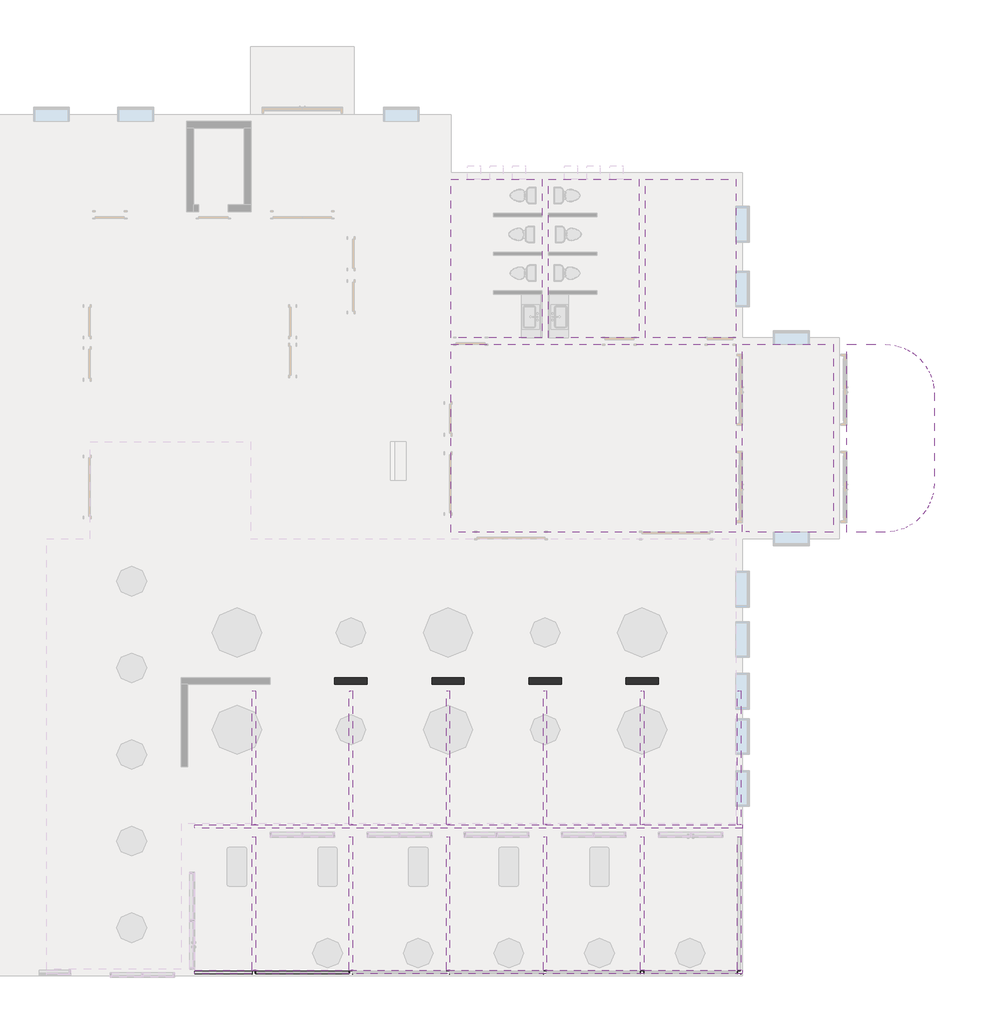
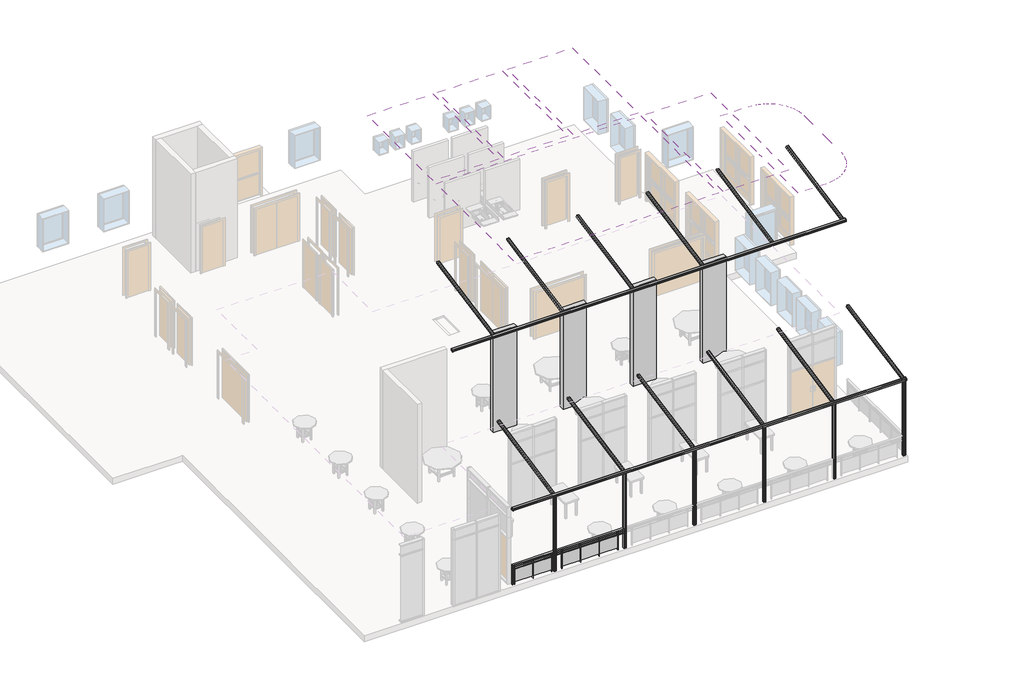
# One storey, part 3 of 4: 14 beams, 10 columns, 5 coverings, 2 railings, 1 roof.
"""IFC4 building model written with IfcOpenShell, lengths in millimetres."""

from ifc_helpers import new_model, si_unit, point, frame, frame_2d, origin, origin_with_axes, place, context, project, spatial, polyline, circle_curve, ellipse_curve, trimmed, segment, composite_curve, outline, extrude, transform, mapped, element, save
from ifc_brep_helpers import plane_surface, cylinder_surface, extruded_surface, advanced_brep
from components import beam_26c6b2e9, beam_d79d36f8, beam_04f6dccd, column_331ee7b7

model = new_model("IFC4")

# Units and contexts
model_context = context("Model", 3, world=origin())
ifc_project = project(units=[si_unit("LENGTHUNIT", "METRE", prefix="MILLI")], contexts=[model_context])

# Site, building, storey
site = spatial("IfcSite", under=ifc_project)
building = spatial("IfcBuilding", under=site)
storey = spatial("IfcBuildingStorey", under=building, Name="Этаж 1", Elevation=0.0)

# Beams
placement = place(None, origin())
beam_shape = beam_26c6b2e9(model_context)
element("IfcBeam", 1, ObjectType="Гнутый квадратный профиль (ТУ BE25577 - 83) Балки : гнутый квадрат. проф. 100x5", at=placement, inside=storey, context=model_context, shape_type="MappedRepresentation", body=[
    mapped(beam_shape, transform((382.7882356, -7791.107586, 3428.5086152), x_axis=(-1.0, 0.0, 0.0), y_axis=(0.0, -0.9807856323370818, -0.19508855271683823), z_axis=(0.0, -0.19508855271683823, 0.9807856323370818))),
])
element("IfcBeam", 2, ObjectType="Гнутый квадратный профиль (ТУ BE25577 - 83) Балки : гнутый квадрат. проф. 100x5", at=placement, inside=storey, context=model_context, shape_type="MappedRepresentation", body=[
    mapped(beam_shape, transform((382.7882356, -3297.6186003, 7927.2135062), x_axis=(-1.0, 0.0, 0.0), y_axis=(0.0, -0.9807856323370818, -0.1950885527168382), z_axis=(0.0, -0.1950885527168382, 0.9807856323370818))),
])
beam_2_shape = beam_d79d36f8(model_context)
element("IfcBeam", 3, ObjectType="Гнутый квадратный профиль (ТУ BE25577 - 83) Балки : гнутый квадрат. проф. 100x5", at=placement, inside=storey, context=model_context, shape_type="MappedRepresentation", body=[
    mapped(beam_2_shape, transform((8742.7882356, -5708.2305977, 3842.8147018), x_axis=(0.0, -0.9807856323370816, -0.19508855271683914), y_axis=(1.0, 0.0, 0.0), z_axis=(0.0, -0.1950885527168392, 0.9807856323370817))),
])
element("IfcBeam", 4, ObjectType="Гнутый квадратный профиль (ТУ BE25577 - 83) Балки : гнутый квадрат. проф. 100x5", at=placement, inside=storey, context=model_context, shape_type="MappedRepresentation", body=[
    mapped(beam_2_shape, transform((5742.7882356, -5708.2305977, 3842.8147018), x_axis=(0.0, -0.9807856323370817, -0.19508855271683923), y_axis=(1.0000000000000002, 0.0, 0.0), z_axis=(0.0, -0.1950885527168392, 0.9807856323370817))),
])
element("IfcBeam", 5, ObjectType="Гнутый квадратный профиль (ТУ BE25577 - 83) Балки : гнутый квадрат. проф. 100x5", at=placement, inside=storey, context=model_context, shape_type="MappedRepresentation", body=[
    mapped(beam_2_shape, transform((2742.7882356, -5708.2305977, 3842.8147018), x_axis=(0.0, -0.9807856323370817, -0.19508855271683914), y_axis=(1.0000000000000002, 0.0, 0.0), z_axis=(0.0, -0.19508855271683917, 0.9807856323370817))),
])
element("IfcBeam", 6, ObjectType="Гнутый квадратный профиль (ТУ BE25577 - 83) Балки : гнутый квадрат. проф. 100x5", at=placement, inside=storey, context=model_context, shape_type="MappedRepresentation", body=[
    mapped(beam_2_shape, transform((-257.2117644, -5708.2305977, 3842.8147018), x_axis=(0.0, -0.9807856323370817, -0.19508855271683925), y_axis=(1.0000000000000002, 0.0, 0.0), z_axis=(0.0, -0.19508855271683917, 0.9807856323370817))),
])
element("IfcBeam", 7, ObjectType="Гнутый квадратный профиль (ТУ BE25577 - 83) Балки : гнутый квадрат. проф. 100x5", at=placement, inside=storey, context=model_context, shape_type="MappedRepresentation", body=[
    mapped(beam_2_shape, transform((-3257.2117644, -5708.2305977, 3842.8147018), x_axis=(0.0, -0.9807856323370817, -0.19508855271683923), y_axis=(1.0000000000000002, 0.0, 0.0), z_axis=(0.0, -0.19508855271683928, 0.9807856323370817))),
])
element("IfcBeam", 8, ObjectType="Гнутый квадратный профиль (ТУ BE25577 - 83) Балки : гнутый квадрат. проф. 100x5", at=placement, inside=storey, context=model_context, shape_type="MappedRepresentation", body=[
    mapped(beam_2_shape, transform((-6257.2117644, -5708.2305977, 3842.8147018), x_axis=(0.0, -0.9807856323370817, -0.19508855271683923), y_axis=(1.0000000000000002, 0.0, 0.0), z_axis=(0.0, -0.19508855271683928, 0.9807856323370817))),
])
beam_3_shape = beam_04f6dccd(model_context)
element("IfcBeam", 9, ObjectType="Гнутый квадратный профиль (ТУ BE25577 - 83) Балки : гнутый квадрат. проф. 100x5", at=placement, inside=storey, context=model_context, shape_type="MappedRepresentation", body=[
    mapped(beam_3_shape, transform((8742.7882356, -1209.3744842, 8342.5871708), x_axis=(0.0, -0.9807856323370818, -0.19508855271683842), y_axis=(1.0, 0.0, 0.0), z_axis=(0.0, -0.19508855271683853, 0.9807856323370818))),
])
element("IfcBeam", 10, ObjectType="Гнутый квадратный профиль (ТУ BE25577 - 83) Балки : гнутый квадрат. проф. 100x5", at=placement, inside=storey, context=model_context, shape_type="MappedRepresentation", body=[
    mapped(beam_3_shape, transform((5742.7882356, -1209.3744842, 8342.5871708), x_axis=(0.0, -0.9807856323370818, -0.19508855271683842), y_axis=(1.0, 0.0, 0.0), z_axis=(0.0, -0.19508855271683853, 0.9807856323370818))),
])
element("IfcBeam", 11, ObjectType="Гнутый квадратный профиль (ТУ BE25577 - 83) Балки : гнутый квадрат. проф. 100x5", at=placement, inside=storey, context=model_context, shape_type="MappedRepresentation", body=[
    mapped(beam_3_shape, transform((2742.7882356, -1209.3744842, 8342.5871708), x_axis=(0.0, -0.9807856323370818, -0.19508855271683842), y_axis=(1.0, 0.0, 0.0), z_axis=(0.0, -0.19508855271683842, 0.9807856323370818))),
])
element("IfcBeam", 12, ObjectType="Гнутый квадратный профиль (ТУ BE25577 - 83) Балки : гнутый квадрат. проф. 100x5", at=placement, inside=storey, context=model_context, shape_type="MappedRepresentation", body=[
    mapped(beam_3_shape, transform((-257.2117644, -1209.3744842, 8342.5871708), x_axis=(0.0, -0.9807856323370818, -0.19508855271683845), y_axis=(1.0, 0.0, 0.0), z_axis=(0.0, -0.19508855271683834, 0.9807856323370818))),
])
element("IfcBeam", 13, ObjectType="Гнутый квадратный профиль (ТУ BE25577 - 83) Балки : гнутый квадрат. проф. 100x5", at=placement, inside=storey, context=model_context, shape_type="MappedRepresentation", body=[
    mapped(beam_3_shape, transform((-3257.2117644, -1209.3744842, 8342.5871708), x_axis=(0.0, -0.9807856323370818, -0.19508855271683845), y_axis=(1.0, 0.0, 0.0), z_axis=(0.0, -0.19508855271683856, 0.9807856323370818))),
])
element("IfcBeam", 14, ObjectType="Гнутый квадратный профиль (ТУ BE25577 - 83) Балки : гнутый квадрат. проф. 100x5", at=placement, inside=storey, context=model_context, shape_type="MappedRepresentation", body=[
    mapped(beam_3_shape, transform((-6257.2117644, -1209.3744842, 8342.5871708), x_axis=(0.0, -0.9807856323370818, -0.19508855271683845), y_axis=(1.0, 0.0, 0.0), z_axis=(0.0, -0.19508855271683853, 0.9807856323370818))),
])

# Columns
element("IfcColumn", 15, ObjectType="Гнутый квадратный профиль (ТУ BE25577 - 83)-Колонна : гнутый квадрат. проф. 100x5", at=placement, inside=storey, context=model_context, shape_type="SweptSolid", body=[
    extrude(outline(composite_curve([segment(polyline([(-6224.2117644, -7857.6023172), (-6290.2117644, -7857.6023172)]), True, "CONTINUOUS"), segment(trimmed(circle_curve(frame_2d((-6290.2117644, -7840.6023172)), 17.0), [point((-6290.2117644, -7857.6023172))], [point((-6307.2117644, -7840.6023172))], False, "CARTESIAN"), True, "CONTINUOUS"), segment(polyline([(-6307.2117644, -7840.6023172), (-6307.2117644, -7774.6023172)]), True, "CONTINUOUS"), segment(trimmed(circle_curve(frame_2d((-6290.2117644, -7774.6023172)), 17.0), [point((-6307.2117644, -7774.6023172))], [point((-6290.2117644, -7757.6023172))], False, "CARTESIAN"), True, "CONTINUOUS"), segment(polyline([(-6290.2117644, -7757.6023172), (-6224.2117644, -7757.6023172)]), True, "CONTINUOUS"), segment(trimmed(circle_curve(frame_2d((-6224.2117644, -7774.6023172)), 17.0), [point((-6224.2117644, -7757.6023172))], [point((-6207.2117644, -7774.6023172))], False, "CARTESIAN"), True, "CONTINUOUS"), segment(polyline([(-6207.2117644, -7774.6023172), (-6207.2117644, -7840.6023172)]), True, "CONTINUOUS"), segment(trimmed(circle_curve(frame_2d((-6224.2117644, -7840.6023172)), 17.0), [point((-6207.2117644, -7840.6023172))], [point((-6224.2117644, -7857.6023172))], False, "CARTESIAN"), True, "CONTINUOUS")], self_intersect=False), holes=[composite_curve([segment(trimmed(circle_curve(frame_2d((-6224.2117644, -7840.6023172)), 12.0), [point((-6224.2117644, -7852.6023172))], [point((-6212.2117644, -7840.6023172))], True, "CARTESIAN"), True, "CONTINUOUS"), segment(polyline([(-6212.2117644, -7840.6023172), (-6212.2117644, -7774.6023172)]), True, "CONTINUOUS"), segment(trimmed(circle_curve(frame_2d((-6224.2117644, -7774.6023172)), 12.0), [point((-6212.2117644, -7774.6023172))], [point((-6224.2117644, -7762.6023172))], True, "CARTESIAN"), True, "CONTINUOUS"), segment(polyline([(-6224.2117644, -7762.6023172), (-6290.2117644, -7762.6023172)]), True, "CONTINUOUS"), segment(trimmed(circle_curve(frame_2d((-6290.2117644, -7774.6023172)), 12.0), [point((-6290.2117644, -7762.6023172))], [point((-6302.2117644, -7774.6023172))], True, "CARTESIAN"), True, "CONTINUOUS"), segment(polyline([(-6302.2117644, -7774.6023172), (-6302.2117644, -7840.6023172)]), True, "CONTINUOUS"), segment(trimmed(circle_curve(frame_2d((-6290.2117644, -7840.6023172)), 12.0), [point((-6302.2117644, -7840.6023172))], [point((-6290.2117644, -7852.6023172))], True, "CARTESIAN"), True, "CONTINUOUS"), segment(polyline([(-6290.2117644, -7852.6023172), (-6224.2117644, -7852.6023172)]), True, "CONTINUOUS")], self_intersect=False)]), origin_with_axes(), (0.0, 0.0, 1.0), 3374.2481005),
])
element("IfcColumn", 16, ObjectType="Гнутый квадратный профиль (ТУ BE25577 - 83)-Колонна : гнутый квадрат. проф. 100x5", at=placement, inside=storey, context=model_context, shape_type="SweptSolid", body=[
    extrude(outline(composite_curve([segment(polyline([(-3224.2117644, -7857.6023172), (-3290.2117644, -7857.6023172)]), True, "CONTINUOUS"), segment(trimmed(circle_curve(frame_2d((-3290.2117644, -7840.6023172)), 17.0), [point((-3290.2117644, -7857.6023172))], [point((-3307.2117644, -7840.6023172))], False, "CARTESIAN"), True, "CONTINUOUS"), segment(polyline([(-3307.2117644, -7840.6023172), (-3307.2117644, -7774.6023172)]), True, "CONTINUOUS"), segment(trimmed(circle_curve(frame_2d((-3290.2117644, -7774.6023172)), 17.0), [point((-3307.2117644, -7774.6023172))], [point((-3290.2117644, -7757.6023172))], False, "CARTESIAN"), True, "CONTINUOUS"), segment(polyline([(-3290.2117644, -7757.6023172), (-3224.2117644, -7757.6023172)]), True, "CONTINUOUS"), segment(trimmed(circle_curve(frame_2d((-3224.2117644, -7774.6023172)), 17.0), [point((-3224.2117644, -7757.6023172))], [point((-3207.2117644, -7774.6023172))], False, "CARTESIAN"), True, "CONTINUOUS"), segment(polyline([(-3207.2117644, -7774.6023172), (-3207.2117644, -7840.6023172)]), True, "CONTINUOUS"), segment(trimmed(circle_curve(frame_2d((-3224.2117644, -7840.6023172)), 17.0), [point((-3207.2117644, -7840.6023172))], [point((-3224.2117644, -7857.6023172))], False, "CARTESIAN"), True, "CONTINUOUS")], self_intersect=False), holes=[composite_curve([segment(trimmed(circle_curve(frame_2d((-3224.2117644, -7840.6023172)), 12.0), [point((-3224.2117644, -7852.6023172))], [point((-3212.2117644, -7840.6023172))], True, "CARTESIAN"), True, "CONTINUOUS"), segment(polyline([(-3212.2117644, -7840.6023172), (-3212.2117644, -7774.6023172)]), True, "CONTINUOUS"), segment(trimmed(circle_curve(frame_2d((-3224.2117644, -7774.6023172)), 12.0), [point((-3212.2117644, -7774.6023172))], [point((-3224.2117644, -7762.6023172))], True, "CARTESIAN"), True, "CONTINUOUS"), segment(polyline([(-3224.2117644, -7762.6023172), (-3290.2117644, -7762.6023172)]), True, "CONTINUOUS"), segment(trimmed(circle_curve(frame_2d((-3290.2117644, -7774.6023172)), 12.0), [point((-3290.2117644, -7762.6023172))], [point((-3302.2117644, -7774.6023172))], True, "CARTESIAN"), True, "CONTINUOUS"), segment(polyline([(-3302.2117644, -7774.6023172), (-3302.2117644, -7840.6023172)]), True, "CONTINUOUS"), segment(trimmed(circle_curve(frame_2d((-3290.2117644, -7840.6023172)), 12.0), [point((-3302.2117644, -7840.6023172))], [point((-3290.2117644, -7852.6023172))], True, "CARTESIAN"), True, "CONTINUOUS"), segment(polyline([(-3290.2117644, -7852.6023172), (-3224.2117644, -7852.6023172)]), True, "CONTINUOUS")], self_intersect=False)]), origin_with_axes(), (0.0, 0.0, 1.0), 3374.2481005),
])
element("IfcColumn", 17, ObjectType="Гнутый квадратный профиль (ТУ BE25577 - 83)-Колонна : гнутый квадрат. проф. 100x5", at=placement, inside=storey, context=model_context, shape_type="SweptSolid", body=[
    extrude(outline(composite_curve([segment(polyline([(-224.2117644, -7857.6023172), (-290.2117644, -7857.6023172)]), True, "CONTINUOUS"), segment(trimmed(circle_curve(frame_2d((-290.2117644, -7840.6023172)), 17.0), [point((-290.2117644, -7857.6023172))], [point((-307.2117644, -7840.6023172))], False, "CARTESIAN"), True, "CONTINUOUS"), segment(polyline([(-307.2117644, -7840.6023172), (-307.2117644, -7774.6023172)]), True, "CONTINUOUS"), segment(trimmed(circle_curve(frame_2d((-290.2117644, -7774.6023172)), 17.0), [point((-307.2117644, -7774.6023172))], [point((-290.2117644, -7757.6023172))], False, "CARTESIAN"), True, "CONTINUOUS"), segment(polyline([(-290.2117644, -7757.6023172), (-224.2117644, -7757.6023172)]), True, "CONTINUOUS"), segment(trimmed(circle_curve(frame_2d((-224.2117644, -7774.6023172)), 17.0), [point((-224.2117644, -7757.6023172))], [point((-207.2117644, -7774.6023172))], False, "CARTESIAN"), True, "CONTINUOUS"), segment(polyline([(-207.2117644, -7774.6023172), (-207.2117644, -7840.6023172)]), True, "CONTINUOUS"), segment(trimmed(circle_curve(frame_2d((-224.2117644, -7840.6023172)), 17.0), [point((-207.2117644, -7840.6023172))], [point((-224.2117644, -7857.6023172))], False, "CARTESIAN"), True, "CONTINUOUS")], self_intersect=False), holes=[composite_curve([segment(trimmed(circle_curve(frame_2d((-224.2117644, -7840.6023172)), 12.0), [point((-224.2117644, -7852.6023172))], [point((-212.2117644, -7840.6023172))], True, "CARTESIAN"), True, "CONTINUOUS"), segment(polyline([(-212.2117644, -7840.6023172), (-212.2117644, -7774.6023172)]), True, "CONTINUOUS"), segment(trimmed(circle_curve(frame_2d((-224.2117644, -7774.6023172)), 12.0), [point((-212.2117644, -7774.6023172))], [point((-224.2117644, -7762.6023172))], True, "CARTESIAN"), True, "CONTINUOUS"), segment(polyline([(-224.2117644, -7762.6023172), (-290.2117644, -7762.6023172)]), True, "CONTINUOUS"), segment(trimmed(circle_curve(frame_2d((-290.2117644, -7774.6023172)), 12.0), [point((-290.2117644, -7762.6023172))], [point((-302.2117644, -7774.6023172))], True, "CARTESIAN"), True, "CONTINUOUS"), segment(polyline([(-302.2117644, -7774.6023172), (-302.2117644, -7840.6023172)]), True, "CONTINUOUS"), segment(trimmed(circle_curve(frame_2d((-290.2117644, -7840.6023172)), 12.0), [point((-302.2117644, -7840.6023172))], [point((-290.2117644, -7852.6023172))], True, "CARTESIAN"), True, "CONTINUOUS"), segment(polyline([(-290.2117644, -7852.6023172), (-224.2117644, -7852.6023172)]), True, "CONTINUOUS")], self_intersect=False)]), origin_with_axes(), (0.0, 0.0, 1.0), 3374.2481005),
])
element("IfcColumn", 18, ObjectType="Гнутый квадратный профиль (ТУ BE25577 - 83)-Колонна : гнутый квадрат. проф. 100x5", at=placement, inside=storey, context=model_context, shape_type="SweptSolid", body=[
    extrude(outline(composite_curve([segment(polyline([(2775.7882356, -7857.6023172), (2709.7882356, -7857.6023172)]), True, "CONTINUOUS"), segment(trimmed(circle_curve(frame_2d((2709.7882356, -7840.6023172)), 17.0), [point((2709.7882356, -7857.6023172))], [point((2692.7882356, -7840.6023172))], False, "CARTESIAN"), True, "CONTINUOUS"), segment(polyline([(2692.7882356, -7840.6023172), (2692.7882356, -7774.6023172)]), True, "CONTINUOUS"), segment(trimmed(circle_curve(frame_2d((2709.7882356, -7774.6023172)), 17.0), [point((2692.7882356, -7774.6023172))], [point((2709.7882356, -7757.6023172))], False, "CARTESIAN"), True, "CONTINUOUS"), segment(polyline([(2709.7882356, -7757.6023172), (2775.7882356, -7757.6023172)]), True, "CONTINUOUS"), segment(trimmed(circle_curve(frame_2d((2775.7882356, -7774.6023172)), 17.0), [point((2775.7882356, -7757.6023172))], [point((2792.7882356, -7774.6023172))], False, "CARTESIAN"), True, "CONTINUOUS"), segment(polyline([(2792.7882356, -7774.6023172), (2792.7882356, -7840.6023172)]), True, "CONTINUOUS"), segment(trimmed(circle_curve(frame_2d((2775.7882356, -7840.6023172)), 17.0), [point((2792.7882356, -7840.6023172))], [point((2775.7882356, -7857.6023172))], False, "CARTESIAN"), True, "CONTINUOUS")], self_intersect=False), holes=[composite_curve([segment(trimmed(circle_curve(frame_2d((2775.7882356, -7840.6023172)), 12.0), [point((2775.7882356, -7852.6023172))], [point((2787.7882356, -7840.6023172))], True, "CARTESIAN"), True, "CONTINUOUS"), segment(polyline([(2787.7882356, -7840.6023172), (2787.7882356, -7774.6023172)]), True, "CONTINUOUS"), segment(trimmed(circle_curve(frame_2d((2775.7882356, -7774.6023172)), 12.0), [point((2787.7882356, -7774.6023172))], [point((2775.7882356, -7762.6023172))], True, "CARTESIAN"), True, "CONTINUOUS"), segment(polyline([(2775.7882356, -7762.6023172), (2709.7882356, -7762.6023172)]), True, "CONTINUOUS"), segment(trimmed(circle_curve(frame_2d((2709.7882356, -7774.6023172)), 12.0), [point((2709.7882356, -7762.6023172))], [point((2697.7882356, -7774.6023172))], True, "CARTESIAN"), True, "CONTINUOUS"), segment(polyline([(2697.7882356, -7774.6023172), (2697.7882356, -7840.6023172)]), True, "CONTINUOUS"), segment(trimmed(circle_curve(frame_2d((2709.7882356, -7840.6023172)), 12.0), [point((2697.7882356, -7840.6023172))], [point((2709.7882356, -7852.6023172))], True, "CARTESIAN"), True, "CONTINUOUS"), segment(polyline([(2709.7882356, -7852.6023172), (2775.7882356, -7852.6023172)]), True, "CONTINUOUS")], self_intersect=False)]), origin_with_axes(), (0.0, 0.0, 1.0), 3374.2481005),
])
element("IfcColumn", 19, ObjectType="Гнутый квадратный профиль (ТУ BE25577 - 83)-Колонна : гнутый квадрат. проф. 100x5", at=placement, inside=storey, context=model_context, shape_type="SweptSolid", body=[
    extrude(outline(composite_curve([segment(polyline([(5775.7882356, -7857.6023172), (5709.7882356, -7857.6023172)]), True, "CONTINUOUS"), segment(trimmed(circle_curve(frame_2d((5709.7882356, -7840.6023172)), 17.0), [point((5709.7882356, -7857.6023172))], [point((5692.7882356, -7840.6023172))], False, "CARTESIAN"), True, "CONTINUOUS"), segment(polyline([(5692.7882356, -7840.6023172), (5692.7882356, -7774.6023172)]), True, "CONTINUOUS"), segment(trimmed(circle_curve(frame_2d((5709.7882356, -7774.6023172)), 17.0), [point((5692.7882356, -7774.6023172))], [point((5709.7882356, -7757.6023172))], False, "CARTESIAN"), True, "CONTINUOUS"), segment(polyline([(5709.7882356, -7757.6023172), (5775.7882356, -7757.6023172)]), True, "CONTINUOUS"), segment(trimmed(circle_curve(frame_2d((5775.7882356, -7774.6023172)), 17.0), [point((5775.7882356, -7757.6023172))], [point((5792.7882356, -7774.6023172))], False, "CARTESIAN"), True, "CONTINUOUS"), segment(polyline([(5792.7882356, -7774.6023172), (5792.7882356, -7840.6023172)]), True, "CONTINUOUS"), segment(trimmed(circle_curve(frame_2d((5775.7882356, -7840.6023172)), 17.0), [point((5792.7882356, -7840.6023172))], [point((5775.7882356, -7857.6023172))], False, "CARTESIAN"), True, "CONTINUOUS")], self_intersect=False), holes=[composite_curve([segment(trimmed(circle_curve(frame_2d((5775.7882356, -7840.6023172)), 12.0), [point((5775.7882356, -7852.6023172))], [point((5787.7882356, -7840.6023172))], True, "CARTESIAN"), True, "CONTINUOUS"), segment(polyline([(5787.7882356, -7840.6023172), (5787.7882356, -7774.6023172)]), True, "CONTINUOUS"), segment(trimmed(circle_curve(frame_2d((5775.7882356, -7774.6023172)), 12.0), [point((5787.7882356, -7774.6023172))], [point((5775.7882356, -7762.6023172))], True, "CARTESIAN"), True, "CONTINUOUS"), segment(polyline([(5775.7882356, -7762.6023172), (5709.7882356, -7762.6023172)]), True, "CONTINUOUS"), segment(trimmed(circle_curve(frame_2d((5709.7882356, -7774.6023172)), 12.0), [point((5709.7882356, -7762.6023172))], [point((5697.7882356, -7774.6023172))], True, "CARTESIAN"), True, "CONTINUOUS"), segment(polyline([(5697.7882356, -7774.6023172), (5697.7882356, -7840.6023172)]), True, "CONTINUOUS"), segment(trimmed(circle_curve(frame_2d((5709.7882356, -7840.6023172)), 12.0), [point((5697.7882356, -7840.6023172))], [point((5709.7882356, -7852.6023172))], True, "CARTESIAN"), True, "CONTINUOUS"), segment(polyline([(5709.7882356, -7852.6023172), (5775.7882356, -7852.6023172)]), True, "CONTINUOUS")], self_intersect=False)]), origin_with_axes(), (0.0, 0.0, 1.0), 3374.2481005),
])
element("IfcColumn", 20, ObjectType="Гнутый квадратный профиль (ТУ BE25577 - 83)-Колонна : гнутый квадрат. проф. 100x5", at=placement, inside=storey, context=model_context, shape_type="SweptSolid", body=[
    extrude(outline(composite_curve([segment(polyline([(8775.7882356, -7857.6023172), (8709.7882356, -7857.6023172)]), True, "CONTINUOUS"), segment(trimmed(circle_curve(frame_2d((8709.7882356, -7840.6023172)), 17.0), [point((8709.7882356, -7857.6023172))], [point((8692.7882356, -7840.6023172))], False, "CARTESIAN"), True, "CONTINUOUS"), segment(polyline([(8692.7882356, -7840.6023172), (8692.7882356, -7774.6023172)]), True, "CONTINUOUS"), segment(trimmed(circle_curve(frame_2d((8709.7882356, -7774.6023172)), 17.0), [point((8692.7882356, -7774.6023172))], [point((8709.7882356, -7757.6023172))], False, "CARTESIAN"), True, "CONTINUOUS"), segment(polyline([(8709.7882356, -7757.6023172), (8775.7882356, -7757.6023172)]), True, "CONTINUOUS"), segment(trimmed(circle_curve(frame_2d((8775.7882356, -7774.6023172)), 17.0), [point((8775.7882356, -7757.6023172))], [point((8792.7882356, -7774.6023172))], False, "CARTESIAN"), True, "CONTINUOUS"), segment(polyline([(8792.7882356, -7774.6023172), (8792.7882356, -7840.6023172)]), True, "CONTINUOUS"), segment(trimmed(circle_curve(frame_2d((8775.7882356, -7840.6023172)), 17.0), [point((8792.7882356, -7840.6023172))], [point((8775.7882356, -7857.6023172))], False, "CARTESIAN"), True, "CONTINUOUS")], self_intersect=False), holes=[composite_curve([segment(trimmed(circle_curve(frame_2d((8775.7882356, -7840.6023172)), 12.0), [point((8775.7882356, -7852.6023172))], [point((8787.7882356, -7840.6023172))], True, "CARTESIAN"), True, "CONTINUOUS"), segment(polyline([(8787.7882356, -7840.6023172), (8787.7882356, -7774.6023172)]), True, "CONTINUOUS"), segment(trimmed(circle_curve(frame_2d((8775.7882356, -7774.6023172)), 12.0), [point((8787.7882356, -7774.6023172))], [point((8775.7882356, -7762.6023172))], True, "CARTESIAN"), True, "CONTINUOUS"), segment(polyline([(8775.7882356, -7762.6023172), (8709.7882356, -7762.6023172)]), True, "CONTINUOUS"), segment(trimmed(circle_curve(frame_2d((8709.7882356, -7774.6023172)), 12.0), [point((8709.7882356, -7762.6023172))], [point((8697.7882356, -7774.6023172))], True, "CARTESIAN"), True, "CONTINUOUS"), segment(polyline([(8697.7882356, -7774.6023172), (8697.7882356, -7840.6023172)]), True, "CONTINUOUS"), segment(trimmed(circle_curve(frame_2d((8709.7882356, -7840.6023172)), 12.0), [point((8697.7882356, -7840.6023172))], [point((8709.7882356, -7852.6023172))], True, "CARTESIAN"), True, "CONTINUOUS"), segment(polyline([(8709.7882356, -7852.6023172), (8775.7882356, -7852.6023172)]), True, "CONTINUOUS")], self_intersect=False)]), origin_with_axes(), (0.0, 0.0, 1.0), 3374.2481005),
])
column_shape = column_331ee7b7(model_context)
element("IfcColumn", 21, ObjectType="Бетон-Прямоугольного сечения-Колонна : 200 x 1000 мм", at=placement, inside=storey, context=model_context, shape_type="MappedRepresentation", body=[
    mapped(column_shape, transform((2742.7882356, 1192.3976828, 0.0), x_axis=(0.0, 1.0000000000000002, 0.0), y_axis=(-1.0000000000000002, 0.0, 0.0), z_axis=(0.0, 0.0, 1.0))),
])
element("IfcColumn", 22, ObjectType="Бетон-Прямоугольного сечения-Колонна : 200 x 1000 мм", at=placement, inside=storey, context=model_context, shape_type="MappedRepresentation", body=[
    mapped(column_shape, transform((-257.2117644, 1192.3976828, 0.0), x_axis=(0.0, 1.0000000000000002, 0.0), y_axis=(-1.0000000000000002, 0.0, 0.0), z_axis=(0.0, 0.0, 1.0))),
])
element("IfcColumn", 23, ObjectType="Бетон-Прямоугольного сечения-Колонна : 200 x 1000 мм", at=placement, inside=storey, context=model_context, shape_type="MappedRepresentation", body=[
    mapped(column_shape, transform((-3257.2117644, 1192.3976828, 0.0), x_axis=(0.0, 1.0000000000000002, 0.0), y_axis=(-1.0000000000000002, 0.0, 0.0), z_axis=(0.0, 0.0, 1.0))),
])
element("IfcColumn", 24, ObjectType="Бетон-Прямоугольного сечения-Колонна : 200 x 1000 мм", at=placement, inside=storey, context=model_context, shape_type="MappedRepresentation", body=[
    mapped(column_shape, transform((5742.7882356, 1192.3976828, 0.0), x_axis=(0.0, 1.0000000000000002, 0.0), y_axis=(-1.0000000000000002, 0.0, 0.0), z_axis=(0.0, 0.0, 1.0))),
])

# Coverings
element("IfcCovering", 25, ObjectType="сетка 600 x 600 мм", at=placement, inside=storey, context=model_context, shape_type="SweptSolid", body=[
    extrude(outline(polyline([(8842.7882356, 11592.3976828), (11642.7882356, 11592.3976828), (11642.7882356, 5792.3976828), (9062.7882356, 5792.3976828), (9062.7882356, 5802.3976828), (8842.7882356, 5802.3976828), (8842.7882356, 11592.3976828)])), frame((0.0, 0.0, 3700.0), z_axis=(0.0, 0.0, 1.0), x_axis=(1.0, 0.0, 0.0)), (0.0, 0.0, 1.0), 52.0),
])
element("IfcCovering", 26, ObjectType="сетка 600 x 600 мм", at=placement, inside=storey, context=model_context, shape_type="SweptSolid", body=[
    extrude(outline(polyline([(8642.7882356, 11592.3976828), (8642.7882356, 5792.3976828), (-157.2117644, 5792.3976828), (-157.2117644, 11592.3976828), (8642.7882356, 11592.3976828)])), frame((0.0, 0.0, 3700.0), z_axis=(0.0, 0.0, 1.0), x_axis=(1.0, 0.0, 0.0)), (0.0, 0.0, 1.0), 52.0),
])
element("IfcCovering", 27, ObjectType="сетка 600 x 600 мм", at=placement, inside=storey, context=model_context, shape_type="SweptSolid", body=[
    extrude(outline(polyline([(-157.2117644, 16692.3976828), (2642.7882356, 16692.3976828), (2642.7882356, 11792.3976828), (-157.2117644, 11792.3976828), (-157.2117644, 16692.3976828)])), frame((0.0, 0.0, 3700.0), z_axis=(0.0, 0.0, 1.0), x_axis=(1.0, 0.0, 0.0)), (0.0, 0.0, 1.0), 52.0),
])
element("IfcCovering", 28, ObjectType="сетка 600 x 600 мм", at=placement, inside=storey, context=model_context, shape_type="SweptSolid", body=[
    extrude(outline(polyline([(2842.7882356, 16692.3976828), (5642.7882356, 16692.3976828), (5642.7882356, 11792.3976828), (2842.7882356, 11792.3976828), (2842.7882356, 16692.3976828)])), frame((0.0, 0.0, 3700.0), z_axis=(0.0, 0.0, 1.0), x_axis=(1.0, 0.0, 0.0)), (0.0, 0.0, 1.0), 52.0),
])
element("IfcCovering", 29, ObjectType="сетка 600 x 600 мм", at=placement, inside=storey, context=model_context, shape_type="SweptSolid", body=[
    extrude(outline(polyline([(5842.7882356, 16692.3976828), (8642.7882356, 16692.3976828), (8642.7882356, 11792.3976828), (5842.7882356, 11792.3976828), (5842.7882356, 16692.3976828)])), frame((0.0, 0.0, 3700.0), z_axis=(0.0, 0.0, 1.0), x_axis=(1.0, 0.0, 0.0)), (0.0, 0.0, 1.0), 52.0),
])

# Railings
element("IfcRailing", 30, ObjectType="Стеклянная панель - Заполнение снизу", at=placement, inside=storey, context=model_context, shape_type="SolidModel", body=[
    advanced_brep(
    [(-6307.2117644, -7846.9930823, 900.0), (-6307.2117644, -7766.9930823, 900.0), (-8087.2117644, -7846.9930823, 900.0), (-8087.2117644, -7766.9930823, 900.0)],
    [
        (0, 1, ellipse_curve(frame((-6307.2117644, -7806.9930823, 900.0), z_axis=(1.0, 0.0, 0.0), x_axis=(0.0, 1.0, 0.0)), 40.0, 30.0)),
        (1, 0, ellipse_curve(frame((-6307.2117644, -7806.9930823, 900.0), z_axis=(1.0, 0.0, 0.0), x_axis=(0.0, 1.0, 0.0)), 40.0, 30.0)),
        (2, 3, ellipse_curve(frame((-8087.2117644, -7806.9930823, 900.0), z_axis=(-1.0, 0.0, 0.0), x_axis=(0.0, 1.0, 0.0)), 40.0, 30.0)),
        (3, 2, ellipse_curve(frame((-8087.2117644, -7806.9930823, 900.0), z_axis=(-1.0, 0.0, 0.0), x_axis=(0.0, 1.0, 0.0)), 40.0, 30.0)),
        (0, 2),
        (3, 1),
    ],
    [
        plane_surface(frame((-6307.2117644, -7806.9930823, 900.0), z_axis=(1.0, 0.0, 0.0), x_axis=(0.0, -1.0, 0.0))),
        plane_surface(frame((-8087.2117644, -7806.9930823, 900.0), z_axis=(-1.0, 0.0, 0.0), x_axis=(0.0, -1.0, 0.0))),
        extruded_surface(trimmed(ellipse_curve(frame((-8087.2117644, -7806.9930823, 900.0), z_axis=(1.0, 0.0, 0.0), x_axis=(0.0, 1.0, 0.0)), 40.0, 30.0), [point((-8087.2117644, -7846.9930823, 900.0))], [point((-8087.2117644, -7766.9930823, 900.0))], True, "CARTESIAN"), (1780.0, 0.0, 0.0), 1780.0),
        extruded_surface(trimmed(ellipse_curve(frame((-8087.2117644, -7806.9930823, 900.0), z_axis=(1.0, 0.0, 0.0), x_axis=(0.0, 1.0, 0.0)), 40.0, 30.0), [point((-8087.2117644, -7766.9930823, 900.0))], [point((-8087.2117644, -7846.9930823, 900.0))], True, "CARTESIAN"), (1780.0, 0.0, 0.0), 1780.0),
    ],
    [
        (0, [[1, 2]]),
        (1, [[3, 4]]),
        (2, [[-1, 5, -4, 6]]),
        (3, [[-2, -6, -3, -5]]),
    ],
),
    extrude(outline(polyline([(-6307.2117644, -7797.6023172), (-6307.2117644, -7817.6023172), (-8087.2117644, -7817.6023172), (-8087.2117644, -7797.6023172), (-6307.2117644, -7797.6023172)])), frame((0.0, 0.0, 780.0), z_axis=(0.0, 0.0, 1.0), x_axis=(1.0, 0.0, 0.0)), (0.0, 0.0, 1.0), 20.0),
    extrude(outline(polyline([(-6307.2117644, -7797.6023172), (-6307.2117644, -7817.6023172), (-8087.2117644, -7817.6023172), (-8087.2117644, -7797.6023172), (-6307.2117644, -7797.6023172)])), frame((0.0, 0.0, 680.0), z_axis=(0.0, 0.0, 1.0), x_axis=(1.0, 0.0, 0.0)), (0.0, 0.0, 1.0), 20.0),
    extrude(outline(polyline([(-7991.2117644, -7832.6023172), (-8003.2117644, -7832.6023172), (-8003.2117644, -7782.6023172), (-7991.2117644, -7782.6023172), (-7991.2117644, -7832.6023172)])), origin_with_axes(), (0.0, 0.0, 1.0), 869.8465326),
    extrude(outline(polyline([(-7197.2117644, -7805.8775071), (-7997.2117644, -7805.8775071), (-7997.2117644, -7800.8775071), (-7197.2117644, -7800.8775071), (-7197.2117644, -7805.8775071)])), frame((0.0, 0.0, 100.0), z_axis=(0.0, 0.0, 1.0), x_axis=(1.0, 0.0, 0.0)), (0.0, 0.0, 1.0), 580.0),
    extrude(outline(polyline([(-7191.2117644, -7832.6023172), (-7203.2117644, -7832.6023172), (-7203.2117644, -7782.6023172), (-7191.2117644, -7782.6023172), (-7191.2117644, -7832.6023172)])), origin_with_axes(), (0.0, 0.0, 1.0), 869.8465326),
    extrude(outline(polyline([(-6397.2117644, -7805.8775071), (-7197.2117644, -7805.8775071), (-7197.2117644, -7800.8775071), (-6397.2117644, -7800.8775071), (-6397.2117644, -7805.8775071)])), frame((0.0, 0.0, 100.0), z_axis=(0.0, 0.0, 1.0), x_axis=(1.0, 0.0, 0.0)), (0.0, 0.0, 1.0), 580.0),
    extrude(outline(polyline([(-6391.2117644, -7832.6023172), (-6403.2117644, -7832.6023172), (-6403.2117644, -7782.6023172), (-6391.2117644, -7782.6023172), (-6391.2117644, -7832.6023172)])), origin_with_axes(), (0.0, 0.0, 1.0), 869.8465326),
    extrude(outline(polyline([(-8079.2117644, -7832.6023172), (-8091.2117644, -7832.6023172), (-8091.2117644, -7782.6023172), (-8079.2117644, -7782.6023172), (-8079.2117644, -7832.6023172)])), origin_with_axes(), (0.0, 0.0, 1.0), 869.8465326),
    extrude(outline(polyline([(-6303.2117644, -7832.6023172), (-6315.2117644, -7832.6023172), (-6315.2117644, -7782.6023172), (-6303.2117644, -7782.6023172), (-6303.2117644, -7832.6023172)])), origin_with_axes(), (0.0, 0.0, 1.0), 869.8465326),
])
element("IfcRailing", 31, ObjectType="Стеклянная панель - Заполнение снизу", at=placement, inside=storey, context=model_context, shape_type="SolidModel", body=[
    advanced_brep(
    [(-6207.2117644, -7768.211552, 900.0), (-6207.2117644, -7848.211552, 900.0), (-3307.2117644, -7768.211552, 900.0), (-3307.2117644, -7848.211552, 900.0)],
    [
        (0, 1, ellipse_curve(frame((-6207.2117644, -7808.211552, 900.0), z_axis=(-1.0, 0.0, 0.0), x_axis=(0.0, -1.0, 0.0)), 40.0, 30.0)),
        (1, 0, ellipse_curve(frame((-6207.2117644, -7808.211552, 900.0), z_axis=(-1.0, 0.0, 0.0), x_axis=(0.0, -1.0, 0.0)), 40.0, 30.0)),
        (2, 3, ellipse_curve(frame((-3307.2117644, -7808.211552, 900.0), z_axis=(1.0, 0.0, 0.0), x_axis=(0.0, -1.0, 0.0)), 40.0, 30.0)),
        (3, 2, ellipse_curve(frame((-3307.2117644, -7808.211552, 900.0), z_axis=(1.0, 0.0, 0.0), x_axis=(0.0, -1.0, 0.0)), 40.0, 30.0)),
        (0, 2),
        (3, 1),
    ],
    [
        plane_surface(frame((-6207.2117644, -7808.211552, 900.0), z_axis=(-1.0, 0.0, 0.0), x_axis=(0.0, 1.0, 0.0))),
        plane_surface(frame((-3307.2117644, -7808.211552, 900.0), z_axis=(1.0, 0.0, 0.0), x_axis=(0.0, 1.0, 0.0))),
        extruded_surface(trimmed(ellipse_curve(frame((-3307.2117644, -7808.211552, 900.0), z_axis=(-1.0, 0.0, 0.0), x_axis=(0.0, -1.0, 0.0)), 40.0, 30.0), [point((-3307.2117644, -7768.211552, 900.0))], [point((-3307.2117644, -7848.211552, 900.0))], True, "CARTESIAN"), (-2900.0, 0.0, 0.0), 2900.0),
        extruded_surface(trimmed(ellipse_curve(frame((-3307.2117644, -7808.211552, 900.0), z_axis=(-1.0, 0.0, 0.0), x_axis=(0.0, -1.0, 0.0)), 40.0, 30.0), [point((-3307.2117644, -7848.211552, 900.0))], [point((-3307.2117644, -7768.211552, 900.0))], True, "CARTESIAN"), (-2900.0, 0.0, 0.0), 2900.0),
    ],
    [
        (0, [[1, 2]]),
        (1, [[3, 4]]),
        (2, [[-1, 5, -4, 6]]),
        (3, [[-2, -6, -3, -5]]),
    ],
),
    extrude(outline(polyline([(-6207.2117644, -7817.6023172), (-6207.2117644, -7797.6023172), (-3307.2117644, -7797.6023172), (-3307.2117644, -7817.6023172), (-6207.2117644, -7817.6023172)])), frame((0.0, 0.0, 780.0), z_axis=(0.0, 0.0, 1.0), x_axis=(1.0, 0.0, 0.0)), (0.0, 0.0, 1.0), 20.0),
    extrude(outline(polyline([(-6207.2117644, -7817.6023172), (-6207.2117644, -7797.6023172), (-3307.2117644, -7797.6023172), (-3307.2117644, -7817.6023172), (-6207.2117644, -7817.6023172)])), frame((0.0, 0.0, 680.0), z_axis=(0.0, 0.0, 1.0), x_axis=(1.0, 0.0, 0.0)), (0.0, 0.0, 1.0), 20.0),
    extrude(outline(polyline([(-3563.2117644, -7782.6023172), (-3551.2117644, -7782.6023172), (-3551.2117644, -7832.6023172), (-3563.2117644, -7832.6023172), (-3563.2117644, -7782.6023172)])), origin_with_axes(), (0.0, 0.0, 1.0), 869.8465326),
    extrude(outline(polyline([(-4357.2117644, -7809.3271273), (-3557.2117644, -7809.3271273), (-3557.2117644, -7814.3271273), (-4357.2117644, -7814.3271273), (-4357.2117644, -7809.3271273)])), frame((0.0, 0.0, 100.0), z_axis=(0.0, 0.0, 1.0), x_axis=(1.0, 0.0, 0.0)), (0.0, 0.0, 1.0), 580.0),
    extrude(outline(polyline([(-4363.2117644, -7782.6023172), (-4351.2117644, -7782.6023172), (-4351.2117644, -7832.6023172), (-4363.2117644, -7832.6023172), (-4363.2117644, -7782.6023172)])), origin_with_axes(), (0.0, 0.0, 1.0), 869.8465326),
    extrude(outline(polyline([(-5157.2117644, -7809.3271273), (-4357.2117644, -7809.3271273), (-4357.2117644, -7814.3271273), (-5157.2117644, -7814.3271273), (-5157.2117644, -7809.3271273)])), frame((0.0, 0.0, 100.0), z_axis=(0.0, 0.0, 1.0), x_axis=(1.0, 0.0, 0.0)), (0.0, 0.0, 1.0), 580.0),
    extrude(outline(polyline([(-5163.2117644, -7782.6023172), (-5151.2117644, -7782.6023172), (-5151.2117644, -7832.6023172), (-5163.2117644, -7832.6023172), (-5163.2117644, -7782.6023172)])), origin_with_axes(), (0.0, 0.0, 1.0), 869.8465326),
    extrude(outline(polyline([(-5957.2117644, -7809.3271273), (-5157.2117644, -7809.3271273), (-5157.2117644, -7814.3271273), (-5957.2117644, -7814.3271273), (-5957.2117644, -7809.3271273)])), frame((0.0, 0.0, 100.0), z_axis=(0.0, 0.0, 1.0), x_axis=(1.0, 0.0, 0.0)), (0.0, 0.0, 1.0), 580.0),
    extrude(outline(polyline([(-5963.2117644, -7782.6023172), (-5951.2117644, -7782.6023172), (-5951.2117644, -7832.6023172), (-5963.2117644, -7832.6023172), (-5963.2117644, -7782.6023172)])), origin_with_axes(), (0.0, 0.0, 1.0), 869.8465326),
    extrude(outline(polyline([(-3315.2117644, -7782.6023172), (-3303.2117644, -7782.6023172), (-3303.2117644, -7832.6023172), (-3315.2117644, -7832.6023172), (-3315.2117644, -7782.6023172)])), origin_with_axes(), (0.0, 0.0, 1.0), 869.8465326),
    extrude(outline(polyline([(-6211.2117644, -7782.6023172), (-6199.2117644, -7782.6023172), (-6199.2117644, -7832.6023172), (-6211.2117644, -7832.6023172), (-6211.2117644, -7782.6023172)])), origin_with_axes(), (0.0, 0.0, 1.0), 869.8465326),
])

# Roof
element("IfcRoof", 32, ObjectType="Деревянное стропило 184мм - Битумная черепица", at=placement, inside=storey, context=model_context, shape_type="AdvancedBrep", body=[
    advanced_brep(
    [(12062.7882356, 8892.3976828, 2976.0828479), (12062.7882356, 11592.3976828, 2500.0), (13262.7882356, 11592.3976828, 2500.0), (14323.4484074, 11153.0578546, 2577.4674654), (12062.7882356, 5792.3976828, 2500.0), (12062.7882356, 8492.3976828, 2976.0828479), (14323.4484074, 6231.737511, 2577.4674654), (13262.7882356, 5792.3976828, 2500.0), (14762.7882356, 10092.3976828, 2500.0), (14762.7882356, 7292.3976828, 2500.0), (12062.7882356, 11592.3976828, 2712.2241619), (12062.7882356, 8892.3976828, 3188.3070098), (14323.4484074, 11153.0578546, 2789.6916273), (13262.7882356, 11592.3976828, 2712.2241619), (12062.7882356, 8492.3976828, 3188.3070098), (12062.7882356, 5792.3976828, 2712.2241619), (13262.7882356, 5792.3976828, 2712.2241619), (14323.4484074, 6231.737511, 2789.6916273), (14762.7882356, 7292.3976828, 2712.2241619), (14762.7882356, 10092.3976828, 2712.2241619)],
    [
        (0, 1),
        (1, 2),
        (2, 3, ellipse_curve(frame((13262.7882356, 10092.3976828, 2764.4904711), z_axis=(0.0, -0.17364817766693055, -0.9848077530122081), x_axis=(0.0, 0.9848077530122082, -0.1736481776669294)), 1523.1399178, 1500.0)),
        (3, 0),
        (4, 5),
        (5, 6),
        (6, 7, ellipse_curve(frame((13262.7882356, 7292.3976828, 2764.4904711), z_axis=(0.0, 0.17364817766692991, -0.9848077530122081), x_axis=(0.0, -0.984807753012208, -0.17364817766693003)), 1523.1399178, 1500.0)),
        (7, 4),
        (5, 0),
        (3, 8, ellipse_curve(frame((13262.7882356, 10092.3976828, 2764.4904711), z_axis=(-0.17364817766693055, 0.0, -0.9848077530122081), x_axis=(0.9848077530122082, 0.0, -0.1736481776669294)), 1523.1399178, 1500.0)),
        (8, 9),
        (9, 6, ellipse_curve(frame((13262.7882356, 7292.3976828, 2764.4904711), z_axis=(-0.17364817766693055, 0.0, -0.9848077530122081), x_axis=(0.9848077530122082, 0.0, -0.1736481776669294)), 1523.1399178, 1500.0)),
        (10, 11),
        (11, 12),
        (12, 13, ellipse_curve(frame((13262.7882356, 10092.3976828, 2976.7146329), z_axis=(0.0, 0.17364817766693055, 0.9848077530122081), x_axis=(0.0, 0.9848077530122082, -0.1736481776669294)), 1523.1399178, 1500.0)),
        (13, 10),
        (14, 15),
        (15, 16),
        (16, 17, ellipse_curve(frame((13262.7882356, 7292.3976828, 2976.7146329), z_axis=(0.0, -0.17364817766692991, 0.9848077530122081), x_axis=(0.0, -0.984807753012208, -0.17364817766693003)), 1523.1399178, 1500.0)),
        (17, 14),
        (11, 14),
        (17, 18, ellipse_curve(frame((13262.7882356, 7292.3976828, 2976.7146329), z_axis=(0.17364817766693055, 0.0, 0.9848077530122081), x_axis=(0.9848077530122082, 0.0, -0.1736481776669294)), 1523.1399178, 1500.0)),
        (18, 19),
        (19, 12, ellipse_curve(frame((13262.7882356, 10092.3976828, 2976.7146329), z_axis=(0.17364817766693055, 0.0, 0.9848077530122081), x_axis=(0.9848077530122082, 0.0, -0.1736481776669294)), 1523.1399178, 1500.0)),
        (1, 10),
        (13, 2),
        (15, 4),
        (7, 16),
        (18, 9),
        (8, 19),
    ],
    [
        plane_surface(frame((14762.7882356, 11592.3976828, 2500.0), z_axis=(0.0, -0.17364817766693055, -0.9848077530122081), x_axis=(-1.0, 0.0, 0.0))),
        plane_surface(frame((12062.7882356, 5792.3976828, 2500.0), z_axis=(0.0, 0.17364817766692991, -0.9848077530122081), x_axis=(1.0, 0.0, 0.0))),
        plane_surface(frame((14762.7882356, 5792.3976828, 2500.0), z_axis=(-0.17364817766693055, 0.0, -0.9848077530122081), x_axis=(0.0, 1.0, 0.0))),
        plane_surface(frame((14762.7882356, 11592.3976828, 2712.2241619), z_axis=(0.0, 0.17364817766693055, 0.9848077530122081), x_axis=(-1.0, 0.0, 0.0))),
        plane_surface(frame((12062.7882356, 5792.3976828, 2712.2241619), z_axis=(0.0, -0.17364817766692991, 0.9848077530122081), x_axis=(1.0, 0.0, 0.0))),
        plane_surface(frame((14762.7882356, 5792.3976828, 2712.2241619), z_axis=(0.17364817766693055, 0.0, 0.9848077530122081), x_axis=(0.0, 1.0, 0.0))),
        plane_surface(frame((13412.7882356, 11592.3976828, 2500.0), z_axis=(0.0, 1.0, 0.0), x_axis=(-1.0, 0.0, 0.0))),
        plane_surface(frame((13412.7882356, 5792.3976828, 2500.0), z_axis=(0.0, -1.0, 0.0), x_axis=(1.0, 0.0, 0.0))),
        plane_surface(frame((14762.7882356, 8692.3976828, 2500.0), z_axis=(1.0, 0.0, 0.0), x_axis=(0.0, 1.0, 0.0))),
        plane_surface(frame((12062.7882356, 11592.3976828, 4500.0), z_axis=(-1.0, 0.0, 0.0), x_axis=(0.0, -1.0, 0.0))),
        cylinder_surface(frame((13262.7882356, 10092.3976828, 0.0), z_axis=(0.0, 0.0, -1.0), x_axis=(1.0, 0.0, 0.0)), 1500.0),
        cylinder_surface(frame((13262.7882356, 7292.3976828, 0.0), z_axis=(0.0, 0.0, -1.0), x_axis=(1.0, 0.0, 0.0)), 1500.0),
    ],
    [
        (0, [[1, 2, 3, 4]]),
        (1, [[5, 6, 7, 8]]),
        (2, [[9, -4, 10, 11, 12, -6]]),
        (3, [[13, 14, 15, 16]]),
        (4, [[17, 18, 19, 20]]),
        (5, [[21, -20, 22, 23, 24, -14]]),
        (6, [[25, -16, 26, -2]]),
        (7, [[27, -8, 28, -18]]),
        (8, [[-23, 29, -11, 30]]),
        (9, [[-25, -1, -9, -5, -27, -17, -21, -13]]),
        (10, [[-3, -26, -15, -24, -30, -10]]),
        (11, [[-7, -12, -29, -22, -19, -28]]),
    ],
),
])

save(model, "model.ifc")
